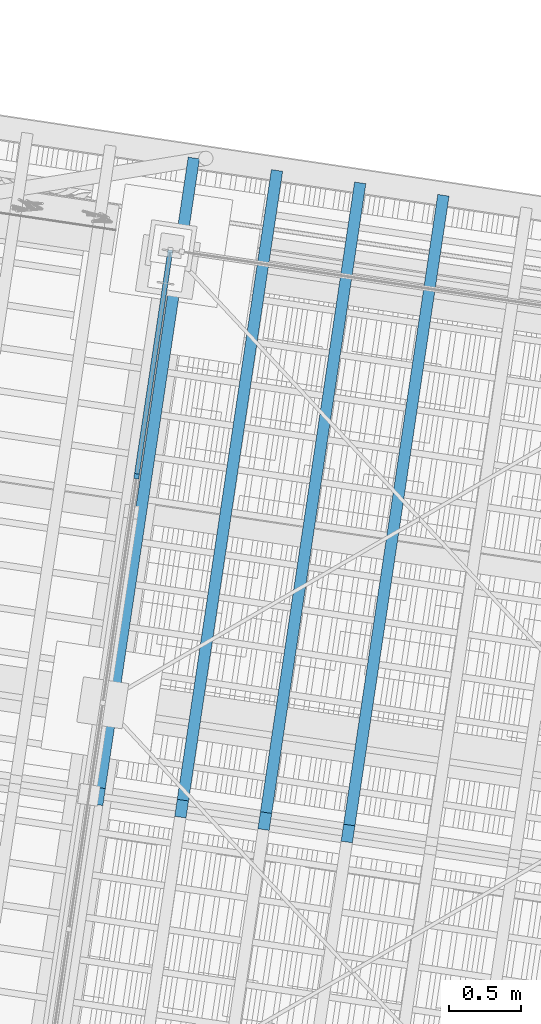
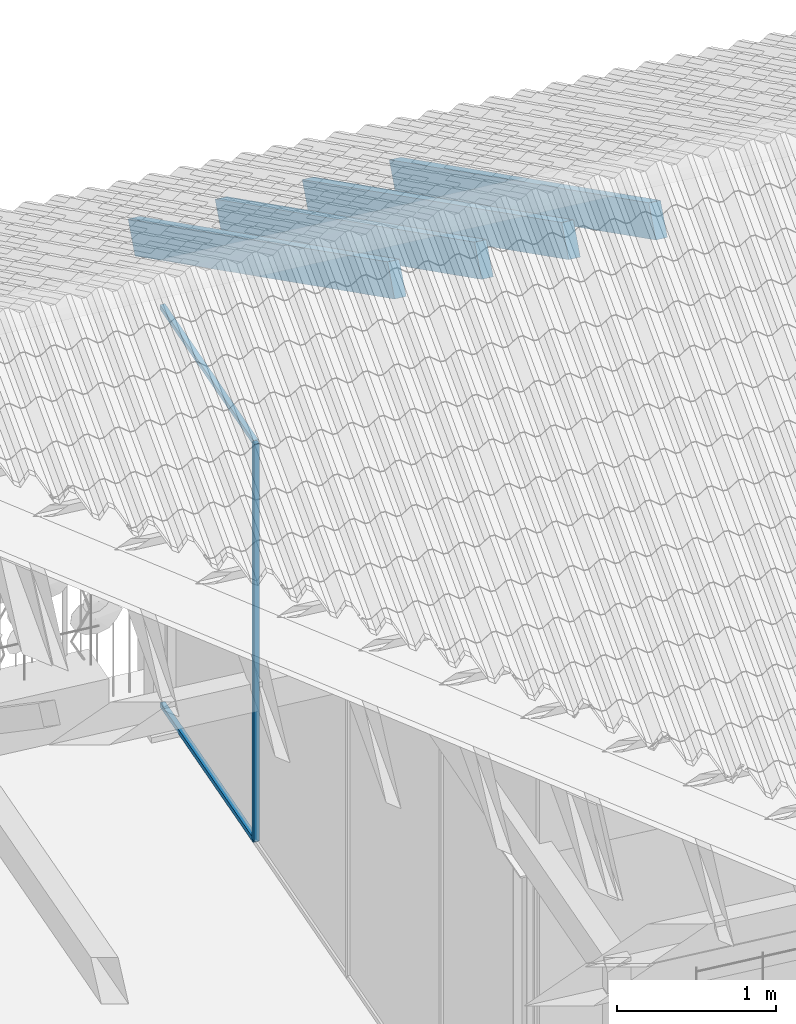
# One storey, part 26 of 131: 8 members, 1 element without a shape of its own.
"""IFC4 building model written with IfcOpenShell, lengths in metres."""

import ifcopenshell
import ifcopenshell.guid

model = None  # the IFC model being written
_history = None  # IfcOwnerHistory: only IFC2X3 demands one
_inside = {}  # id of a spatial element -> (the spatial element, [elements in it])
_under = {}  # id of a project, library or spatial element -> (it, [spatial elements below it])
_declared = {}  # id of a project -> (the project, [libraries it declares])
_typed = {}  # id of a type object -> (the type object, [elements of that type])
_made_of = {}  # id of a material, layer set ... -> (it, [elements and type objects made of it])


def new_model(schema):
    """Start an empty IFC model of exactly this schema.

    Asked for "IFC4X3", IfcOpenShell would pick the latest addendum, in which some entities
    have other attributes; the version numbers below select the first issue.
    IFC2X3 requires an IfcOwnerHistory on every rooted entity: one is made here for all.
    """
    global model, _history
    if schema == "IFC4X3":
        model = ifcopenshell.file(schema_version=(4, 3, 0, 0))
    else:
        model = ifcopenshell.file(schema=schema)
    _inside.clear()
    _under.clear()
    _declared.clear()
    _typed.clear()
    _made_of.clear()
    _history = None
    if model.schema == "IFC2X3":
        org = make("IfcOrganization", Name="unknown")
        user = make(
            "IfcPersonAndOrganization",
            ThePerson=make("IfcPerson", FamilyName="unknown"),
            TheOrganization=org,
        )
        app = make(
            "IfcApplication",
            ApplicationDeveloper=org,
            Version="unknown",
            ApplicationFullName="unknown",
            ApplicationIdentifier="unknown",
        )
        _history = make(
            "IfcOwnerHistory",
            OwningUser=user,
            OwningApplication=app,
            ChangeAction="ADDED",
            CreationDate=0,
        )
    return model


def make(cls, **values):
    """One entity of the class cls with the attributes given. An attribute that is None is left unset."""
    return model.create_entity(
        cls, **{name: value for name, value in values.items() if value is not None}
    )


def rooted(cls, **values):
    """An entity with a GlobalId (a new one), such as an element, a storey or a relation."""
    return make(cls, GlobalId=ifcopenshell.guid.new(), OwnerHistory=_history, **values)


def si_unit(unit_type, name, prefix=None):
    """IfcSIUnit, for example si_unit("LENGTHUNIT", "METRE", prefix="MILLI")."""
    return make("IfcSIUnit", UnitType=unit_type, Prefix=prefix, Name=name)


def assignment(units):
    """IfcUnitAssignment: the units of a project."""
    return None if units is None else make("IfcUnitAssignment", Units=units)


def point(xyz):
    """IfcCartesianPoint."""
    return None if xyz is None else make("IfcCartesianPoint", Coordinates=xyz)


def direction(xyz):
    """IfcDirection."""
    return None if xyz is None else make("IfcDirection", DirectionRatios=xyz)


def frame(location, z_axis=None, x_axis=None):
    """IfcAxis2Placement3D, a coordinate frame: its origin and axes. An axis left out is left unset."""
    return make(
        "IfcAxis2Placement3D",
        Location=point(location),
        Axis=direction(z_axis),
        RefDirection=direction(x_axis),
    )


def origin_with_axes():
    """The frame at (0, 0, 0) with the z axis (0, 0, 1) and the x axis (1, 0, 0) written out."""
    return frame((0.0, 0.0, 0.0), z_axis=(0.0, 0.0, 1.0), x_axis=(1.0, 0.0, 0.0))


def place(relative_to, where):
    """IfcLocalPlacement: puts the frame where relative to a parent placement (None: the world)."""
    return make(
        "IfcLocalPlacement", PlacementRelTo=relative_to, RelativePlacement=where
    )


def context(
    kind, dimensions, precision=None, world=None, true_north=None, identifier=None
):
    """IfcGeometricRepresentationContext, for example the 3D "Model" context."""
    return make(
        "IfcGeometricRepresentationContext",
        ContextIdentifier=identifier,
        ContextType=kind,
        CoordinateSpaceDimension=dimensions,
        Precision=precision,
        WorldCoordinateSystem=world,
        TrueNorth=true_north,
    )


def subcontext(parent, identifier, kind, view, scale=None):
    """IfcGeometricRepresentationSubContext, for example "Body" below "Model"."""
    return make(
        "IfcGeometricRepresentationSubContext",
        ContextIdentifier=identifier,
        ContextType=kind,
        ParentContext=parent,
        TargetScale=scale,
        TargetView=view,
    )


def project(units=None, contexts=None):
    """IfcProject with its units and contexts."""
    return rooted(
        "IfcProject",
        Name="project",
        RepresentationContexts=contexts,
        UnitsInContext=assignment(units),
    )


def spatial(cls, under=None, at=None, **own):
    """A site, building, storey or space (cls), placed at a placement, below another one or the project."""
    s = rooted(cls, ObjectPlacement=at, **own)
    if under is not None:
        _under.setdefault(under.id(), (under, []))[1].append(s)
    return s


def profile(cls, at=None, kind="AREA", **sizes):
    """A parametric profile (cls). Its sizes go by their IFC names, for example OverallWidth=200.0."""
    return make(cls, ProfileType=kind, Position=at, **sizes)


def rectangle(**sizes):
    """IfcRectangleProfileDef."""
    return profile("IfcRectangleProfileDef", **sizes)


def extrude(swept, where, along, depth):
    """IfcExtrudedAreaSolid: the profile swept, set in the frame where, extruded along a direction by depth."""
    return make(
        "IfcExtrudedAreaSolid",
        SweptArea=swept,
        Position=where,
        ExtrudedDirection=direction(along),
        Depth=depth,
    )


def shape(context_of_items, identifier, shape_type, items):
    """IfcShapeRepresentation: the items that make up one representation, for example the "Body"."""
    return make(
        "IfcShapeRepresentation",
        ContextOfItems=context_of_items,
        RepresentationIdentifier=identifier,
        RepresentationType=shape_type,
        Items=items,
    )


def material(Name=None, Category=None):
    """IfcMaterial."""
    return make("IfcMaterial", Name=Name, Category=Category)


def material_profile(
    of_material, cross_section, Name=None, Category=None, Priority=None
):
    """IfcMaterialProfile: a cross section and its material."""
    return make(
        "IfcMaterialProfile",
        Name=Name,
        Material=of_material,
        Profile=cross_section,
        Priority=Priority,
        Category=Category,
    )


def profile_set(profiles, Name=None, composite=None):
    """IfcMaterialProfileSet."""
    return make(
        "IfcMaterialProfileSet",
        Name=Name,
        MaterialProfiles=profiles,
        CompositeProfile=composite,
    )


def profile_usage(for_profile_set, cardinal=None, extent=None):
    """IfcMaterialProfileSetUsage: how a profile set lies along its element."""
    return make(
        "IfcMaterialProfileSetUsage",
        ForProfileSet=for_profile_set,
        CardinalPoint=cardinal,
        ReferenceExtent=extent,
    )


def made_of(thing, what):
    """Note that an element or type object is made of a material, layer set ...; save() writes the relation."""
    if what is not None:
        _made_of.setdefault(what.id(), (what, []))[1].append(thing)
    return thing


def type_object(cls, material=None, **own):
    """A type object (cls), such as IfcWallType, which elements share."""
    return made_of(rooted(cls, **own), material)


def element(
    cls,
    number,
    at=None,
    inside=None,
    cuts=None,
    type_object=None,
    material=None,
    context=None,
    identifier="Body",
    shape_type=None,
    held_by="IfcProductDefinitionShape",
    body=None,
    shapes=None,
    **own,
):
    """One element of the class cls, such as IfcWall. Its Tag is "e" and its number.

    at: its placement. inside: the storey or other place that contains it. cuts: it is an
    opening in that element (IfcRelVoidsElement). A single representation is given by context,
    identifier, shape_type and body (its items); several are given by shapes. held_by: the class
    of the entity that holds the representations. save() writes the other relations.
    """
    e = rooted(cls, Tag="e%d" % number, ObjectPlacement=at, **own)
    if body is not None:
        shapes = [shape(context, identifier, shape_type, body)]
    if shapes is not None:
        e.Representation = make(held_by, Representations=shapes)
    if inside is not None:
        _inside.setdefault(inside.id(), (inside, []))[1].append(e)
    if cuts is not None:
        rooted(
            "IfcRelVoidsElement", RelatingBuildingElement=cuts, RelatedOpeningElement=e
        )
    if type_object is not None:
        _typed.setdefault(type_object.id(), (type_object, []))[1].append(e)
    return made_of(e, material)


def aggregate(whole, parts):
    """IfcRelAggregates: a whole, such as a stair, and the parts it consists of."""
    return rooted("IfcRelAggregates", RelatingObject=whole, RelatedObjects=parts)


def save(model, path):
    """Write the relations noted so far, then the file.

    IfcRelAggregates (storeys below a building ...), IfcRelContainedInSpatialStructure (elements
    in a storey), IfcRelDefinesByType, IfcRelAssociatesMaterial and IfcRelDeclares: one each for
    every whole, place, type object, material and project.
    """
    for whole, parts in _under.values():
        aggregate(whole, parts)
    for where, things in _inside.values():
        rooted(
            "IfcRelContainedInSpatialStructure",
            RelatedElements=things,
            RelatingStructure=where,
        )
    for kind, things in _typed.values():
        rooted("IfcRelDefinesByType", RelatedObjects=things, RelatingType=kind)
    for what, things in _made_of.values():
        rooted("IfcRelAssociatesMaterial", RelatedObjects=things, RelatingMaterial=what)
    for by, libraries in _declared.values():
        rooted("IfcRelDeclares", RelatingContext=by, RelatedDefinitions=libraries)
    model.write(path)


model = new_model("IFC4")

# Units and contexts
model_context = context("Model", 3, precision=1e-05, world=origin_with_axes(), true_north=direction((0.0, 1.0)))
body_context = subcontext(model_context, "Body", "Model", "MODEL_VIEW")
ifc_project = project(units=[si_unit("AREAUNIT", "SQUARE_METRE"), si_unit("VOLUMEUNIT", "CUBIC_METRE"), si_unit("LENGTHUNIT", "METRE")], contexts=[model_context])

# Site, building, storey
site_placement = place(None, origin_with_axes())
site = spatial("IfcSite", under=ifc_project, at=site_placement, Name="Lares · Rua das Mercês · artigo 4771")
building_placement = place(site_placement, frame((15.0, 9.7, 14.65), z_axis=(0.0, 0.0, 1.0), x_axis=(0.989015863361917, -0.147809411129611, 0.0)))
building = spatial("IfcBuilding", under=site, at=building_placement, Name="Casa Sobreposta")
storey_placement = place(building_placement, origin_with_axes())
storey = spatial("IfcBuildingStorey", under=building, at=storey_placement, Name="00 · Habitação e estacionamento", Elevation=14.65)

# Members
ifc_material_1 = material(Name="Aço pintado / Stahl lackiert", Category="steel")
ifc_material_profile_1 = material_profile(ifc_material_1, rectangle(XDim=0.035, YDim=0.035))
ifc_profile_set_1 = profile_set([ifc_material_profile_1], Name="R0.035")
ifc_profile_usage_1 = profile_usage(ifc_profile_set_1)
member_type_1 = type_object("IfcMemberType", Name="R0.035 / steel", PredefinedType="NOTDEFINED", material=ifc_profile_set_1)
member_1_placement = place(storey_placement, frame((0.0, 4.8, 0.0), z_axis=(0.0, 0.0, 1.0), x_axis=(1.0, 0.0, 0.0)))
element("IfcMember", 1, at=member_1_placement, inside=storey, type_object=member_type_1, material=ifc_profile_usage_1, context=body_context, shape_type="SweptSolid", body=[
    extrude(rectangle(XDim=0.035, YDim=0.035), origin_with_axes(), (0.0, 0.0, 1.0), 3.05),
])
ifc_profile_usage_2 = profile_usage(ifc_profile_set_1)
member_2_placement = place(storey_placement, frame((0.0, 4.8, 0.0), z_axis=(0.0, 0.0, 1.0), x_axis=(1.0, 0.0, 0.0)))
element("IfcMember", 2, at=member_2_placement, inside=storey, type_object=member_type_1, material=ifc_profile_usage_2, context=body_context, shape_type="SweptSolid", body=[
    extrude(rectangle(XDim=0.035, YDim=0.035), origin_with_axes(), (0.0, 0.0, 1.0), 3.05),
])
ifc_profile_usage_3 = profile_usage(ifc_profile_set_1)
member_3_placement = place(storey_placement, frame((0.0, 4.8, 0.0), z_axis=(0.0, 1.0, 0.0), x_axis=(1.0, 0.0, 0.0)))
element("IfcMember", 3, at=member_3_placement, inside=storey, type_object=member_type_1, material=ifc_profile_usage_3, Name="Fachada poente integralmente envidraçada · módulo 4 · travessa", context=body_context, shape_type="SweptSolid", body=[
    extrude(rectangle(XDim=0.035, YDim=0.035), origin_with_axes(), (0.0, 0.0, 1.0), 1.6),
])
ifc_profile_usage_4 = profile_usage(ifc_profile_set_1)
member_4_placement = place(storey_placement, frame((0.0, 4.8, 3.05), z_axis=(0.0, 1.0, 0.0), x_axis=(1.0, 0.0, 0.0)))
element("IfcMember", 4, at=member_4_placement, inside=storey, type_object=member_type_1, material=ifc_profile_usage_4, Name="Fachada poente integralmente envidraçada · módulo 4 · travessa", context=body_context, shape_type="SweptSolid", body=[
    extrude(rectangle(XDim=0.035, YDim=0.035), origin_with_axes(), (0.0, 0.0, 1.0), 1.6),
])

# Roof, members
ifc_material_2 = material(Name="Madeira / Bauholz", Category="wood")
roof_placement = place(storey_placement, origin_with_axes())
roof = element("IfcRoof", 5, at=roof_placement, inside=storey, material=ifc_material_2, Name="Cobertura de telha · duas águas 30 graus", PredefinedType="GABLE_ROOF")
ifc_material_profile_2 = material_profile(ifc_material_2, rectangle(XDim=0.08, YDim=0.24))
ifc_profile_set_2 = profile_set([ifc_material_profile_2], Name="TIMBER0.080x0.240")
ifc_profile_usage_5 = profile_usage(ifc_profile_set_2)
member_type_2 = type_object("IfcMemberType", Name="TIMBER0.080x0.240 / timber", PredefinedType="NOTDEFINED", material=ifc_profile_set_2)
member_5_placement = place(roof_placement, frame((0.0666666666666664, 2.55, 5.75020869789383), z_axis=(0.0, 0.866025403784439, -0.5), x_axis=(1.0, 0.0, 0.0)))
member_5 = element("IfcMember", 6, at=member_5_placement, type_object=member_type_2, material=ifc_profile_usage_5, Name="Cobertura · caibro", context=body_context, shape_type="SweptSolid", body=[
    extrude(rectangle(XDim=0.08, YDim=0.24), origin_with_axes(), (0.0, 0.0, 1.0), 5.13841739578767),
])
ifc_profile_usage_6 = profile_usage(ifc_profile_set_2)
member_6_placement = place(roof_placement, frame((0.654545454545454, 2.55, 5.75020869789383), z_axis=(0.0, 0.866025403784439, -0.5), x_axis=(1.0, 0.0, 0.0)))
member_6 = element("IfcMember", 7, at=member_6_placement, type_object=member_type_2, material=ifc_profile_usage_6, Name="Cobertura · caibro", context=body_context, shape_type="SweptSolid", body=[
    extrude(rectangle(XDim=0.08, YDim=0.24), origin_with_axes(), (0.0, 0.0, 1.0), 5.13841739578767),
])
ifc_profile_usage_7 = profile_usage(ifc_profile_set_2)
member_7_placement = place(roof_placement, frame((1.24242424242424, 2.55, 5.75020869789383), z_axis=(0.0, 0.866025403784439, -0.5), x_axis=(1.0, 0.0, 0.0)))
member_7 = element("IfcMember", 8, at=member_7_placement, type_object=member_type_2, material=ifc_profile_usage_7, Name="Cobertura · caibro", context=body_context, shape_type="SweptSolid", body=[
    extrude(rectangle(XDim=0.08, YDim=0.24), origin_with_axes(), (0.0, 0.0, 1.0), 5.13841739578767),
])
ifc_profile_usage_8 = profile_usage(ifc_profile_set_2)
member_8_placement = place(roof_placement, frame((1.83030303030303, 2.55, 5.75020869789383), z_axis=(0.0, 0.866025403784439, -0.5), x_axis=(1.0, 0.0, 0.0)))
member_8 = element("IfcMember", 9, at=member_8_placement, type_object=member_type_2, material=ifc_profile_usage_8, Name="Cobertura · caibro", context=body_context, shape_type="SweptSolid", body=[
    extrude(rectangle(XDim=0.08, YDim=0.24), origin_with_axes(), (0.0, 0.0, 1.0), 5.13841739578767),
])
aggregate(roof, [member_5, member_6, member_7, member_8])

save(model, "model.ifc")
